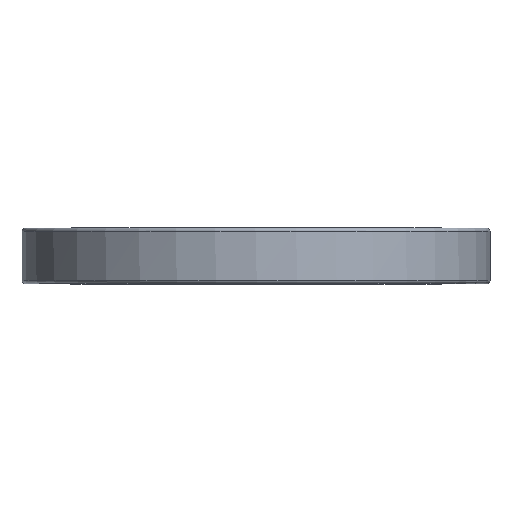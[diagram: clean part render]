
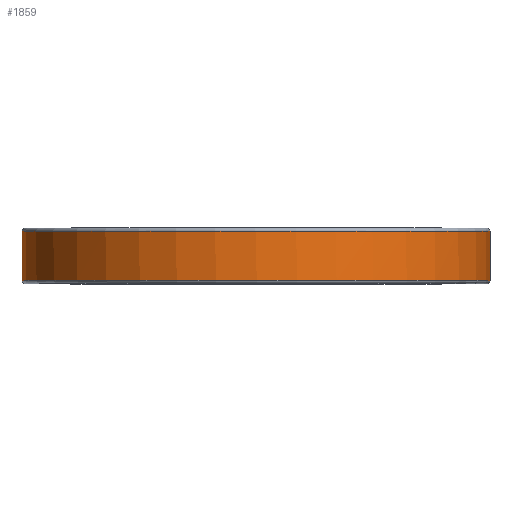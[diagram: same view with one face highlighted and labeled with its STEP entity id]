
A CAD part, top view. The second image highlights one B-rep face of the part: STEP entity #1859.
In plain terms, the highlighted cylindrical face has radius 147.5 mm (diameter 295 mm), a partial arc.
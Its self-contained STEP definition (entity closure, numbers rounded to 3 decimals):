
#1859=ADVANCED_FACE('',(#5201),#5202,.T.);
#1907=EDGE_CURVE('',#4237,#4355,#5255,.T.);
#2345=EDGE_CURVE('',#4581,#4061,#5764,.T.);
#3125=EDGE_CURVE('',#3315,#4983,#6631,.T.);
#3275=EDGE_CURVE('',#4983,#4237,#6801,.T.);
#3315=VERTEX_POINT('',#6861);
#3491=EDGE_CURVE('',#4061,#3315,#7068,.T.);
#4061=VERTEX_POINT('',#7689);
#4237=VERTEX_POINT('',#7887);
#4355=VERTEX_POINT('',#8017);
#4581=VERTEX_POINT('',#8266);
#4859=EDGE_CURVE('',#4581,#4355,#8592,.T.);
#4983=VERTEX_POINT('',#8727);
#5201=FACE_OUTER_BOUND('',#8994,.T.);
#5202=CYLINDRICAL_SURFACE('',#8995,147.5);
#5255=CIRCLE('',#9070,147.5);
#5764=CIRCLE('',#9722,147.5);
#6631=LINE('',#10828,#10829);
#6801=CIRCLE('',#11054,147.5);
#6861=CARTESIAN_POINT('',(-147.5,2.0,0.));
#7068=CIRCLE('',#11378,147.5);
#7689=CARTESIAN_POINT('',(-147.497,2.0,0.914));
#7887=CARTESIAN_POINT('',(147.499,33.0,0.644));
#8017=CARTESIAN_POINT('',(147.5,33.0,0.));
#8266=CARTESIAN_POINT('',(147.5,2.0,0.));
#8592=LINE('',#13372,#13373);
#8727=CARTESIAN_POINT('',(-147.5,33.0,0.));
#8994=EDGE_LOOP('',(#13768,#13769,#13770,#13771,#13772,#13773));
#8995=AXIS2_PLACEMENT_3D('',#13774,#13775,#13776);
#9070=AXIS2_PLACEMENT_3D('',#13852,#13853,#13854);
#9722=AXIS2_PLACEMENT_3D('',#14566,#14567,#14568);
#10828=CARTESIAN_POINT('',(-147.5,2.0,0.));
#10829=VECTOR('',#15653,31.0);
#11054=AXIS2_PLACEMENT_3D('',#15897,#15898,#15899);
#11378=AXIS2_PLACEMENT_3D('',#16303,#16304,#16305);
#13372=CARTESIAN_POINT('',(147.5,2.0,0.));
#13373=VECTOR('',#18234,31.0);
#13768=ORIENTED_EDGE('',*,*,#3125,.F.);
#13769=ORIENTED_EDGE('',*,*,#3491,.F.);
#13770=ORIENTED_EDGE('',*,*,#2345,.F.);
#13771=ORIENTED_EDGE('',*,*,#4859,.T.);
#13772=ORIENTED_EDGE('',*,*,#1907,.F.);
#13773=ORIENTED_EDGE('',*,*,#3275,.F.);
#13774=CARTESIAN_POINT('',(0.0,0.0,0.0));
#13775=DIRECTION('',(-0.0,1.0,-0.0));
#13776=DIRECTION('',(1.0,0.0,0.0));
#13852=CARTESIAN_POINT('',(0.0,33.0,0.0));
#13853=DIRECTION('',(0.0,1.0,0.0));
#13854=DIRECTION('',(-1.0,0.0,0.0));
#14566=CARTESIAN_POINT('',(0.0,2.0,0.0));
#14567=DIRECTION('',(0.0,-1.0,0.0));
#14568=DIRECTION('',(1.0,0.0,0.0));
#15653=DIRECTION('',(0.0,1.0,0.));
#15897=CARTESIAN_POINT('',(0.0,33.0,0.0));
#15898=DIRECTION('',(0.0,1.0,0.0));
#15899=DIRECTION('',(-1.0,0.0,0.0));
#16303=CARTESIAN_POINT('',(0.0,2.0,0.0));
#16304=DIRECTION('',(0.0,-1.0,0.0));
#16305=DIRECTION('',(1.0,0.0,0.0));
#18234=DIRECTION('',(0.0,1.0,0.));
